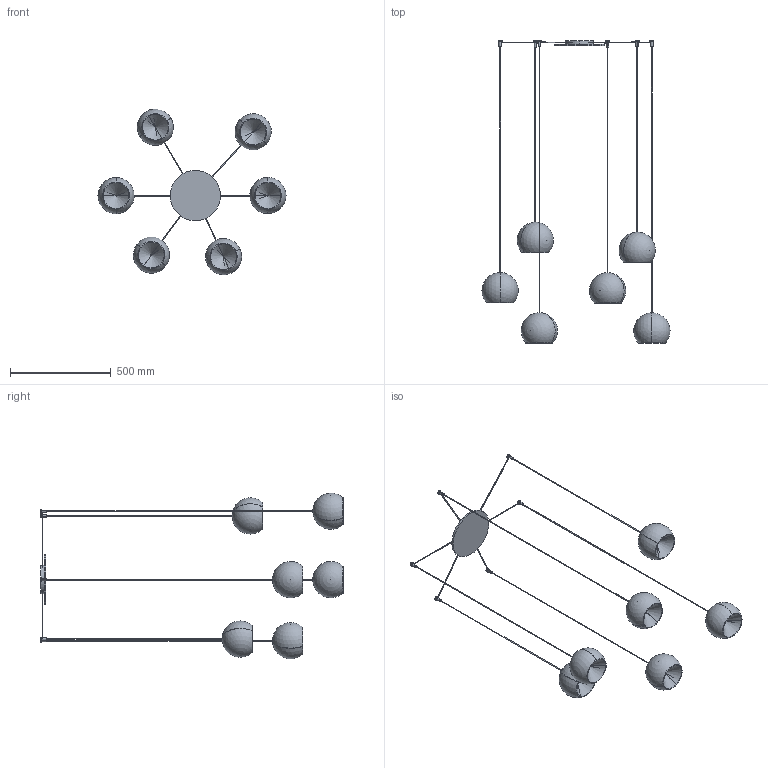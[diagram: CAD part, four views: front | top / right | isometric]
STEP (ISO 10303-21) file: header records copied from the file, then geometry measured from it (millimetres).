
FILE_DESCRIPTION (( 'STEP AP203' ), '1' );
FILE_NAME ('CHR06-00-CHERRY_6 sospensione.STEP', '2025-05-06T06:15:48', ( '' ), ( '' ), 'SwSTEP 2.0', 'SolidWorks 2022', '' );
FILE_SCHEMA (( 'CONFIG_CONTROL_DESIGN' ));
Length unit declared in the file: millimetre
Products named in the file (6): CHERRY_Lampada singola_Cherry 180 | H=1700; CHR06-00-CHERRY_6 sospensione; CHERRY_Rosone_Cherry 6 (x d.1800)<A macchina>; CHERRY_Lampada singola_Cherry 180 | H=1950; CHERRY_Lampada singola_Cherry 180 | H=1500; CHERRY_Lampada singola_Cherry 180 | H=1900
Assembly tree (7 placements, depth 2):
  CHR06-00-CHERRY_6 sospensione
    CHERRY_Rosone_Cherry 6 (x d.1800)<A macchina>
    CHERRY_Lampada singola_Cherry 180 | H=1500  x2
    CHERRY_Lampada singola_Cherry 180 | H=1700  x2
    CHERRY_Lampada singola_Cherry 180 | H=1950
    CHERRY_Lampada singola_Cherry 180 | H=1900
Bounding box: 933 x 1500 x 821.7 mm (x, y, z)
Volume: 1948730 mm3; surface area: 1487979.5 mm2
Topology: 31 solids, 31 shells, 235 faces, 554 edges, 346 vertices
Faces by surface type: cylinder 112, plane 75, sphere 24, cone 24
Entity records: 5356 total; most frequent: CARTESIAN_POINT 1125, DIRECTION 816, ORIENTED_EDGE 676, AXIS2_PLACEMENT_3D 361, EDGE_CURVE 338, VERTEX_POINT 222, EDGE_LOOP 188, CIRCLE 180
